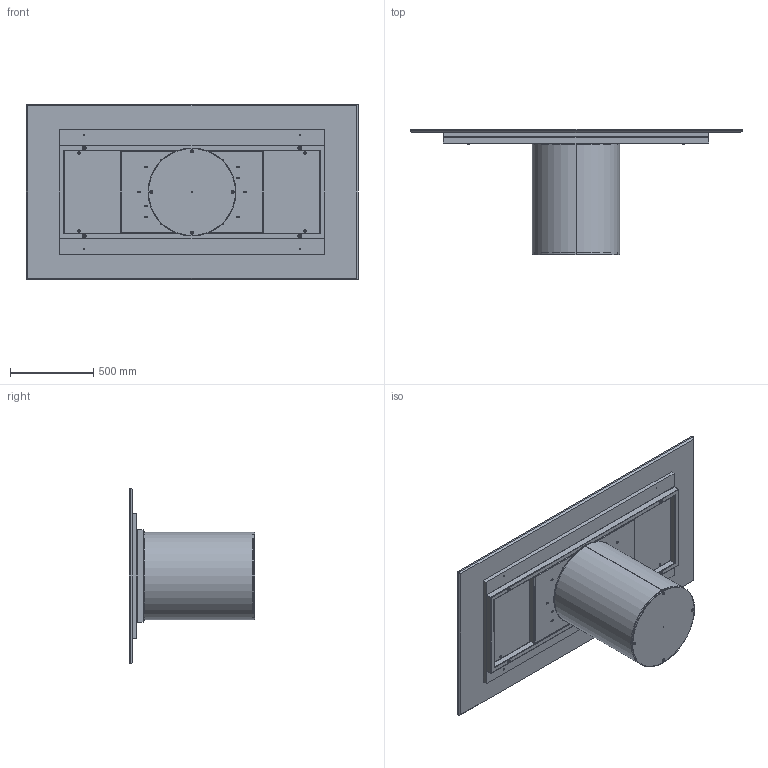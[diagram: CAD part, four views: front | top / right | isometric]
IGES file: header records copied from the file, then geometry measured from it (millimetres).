
Start section: SolidWorks IGES file using analytic representation for surfaces
Global section: file name: Y:\eforma\TECNICO\SOLIDWORKS\E-FORMA\1-TAVOLI\CILINDRO\02 parts\CI21M.IGS; native system: SolidWorks 2022; preprocessor: SolidWorks 2022; author: eforma.tech; date: 240808.092223; units: millimetre
Bounding box: 2000 x 755 x 1060 mm (x, y, z)
Volume: 80740847 mm3; surface area: 11957102.5 mm2
Topology: 21 solids, 21 shells, 786 faces, 1864 edges, 1073 vertices
Faces by surface type: revolution 480, plane 306
